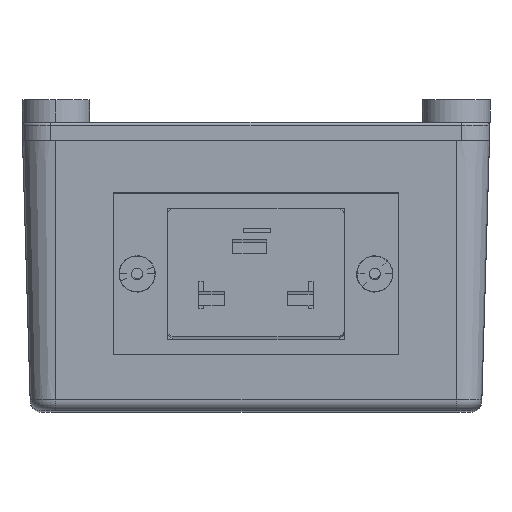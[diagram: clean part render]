
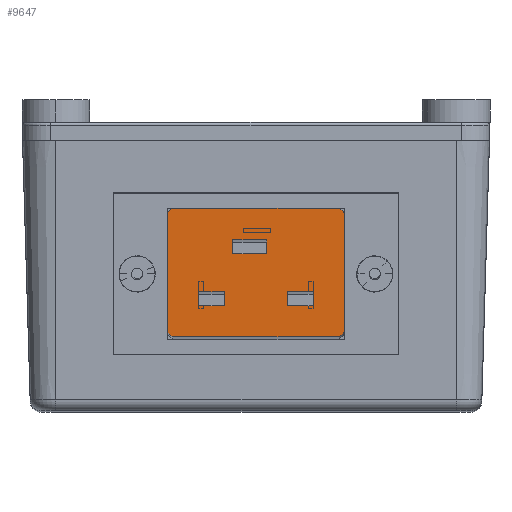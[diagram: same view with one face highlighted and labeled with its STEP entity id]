
A CAD part, top view. The second image highlights one B-rep face of the part: STEP entity #9647.
In plain terms, the highlighted planar face has unit normal (0, -0.029, 1) as drawn and (0, 0, 1) by its records, which use the part's own axes.
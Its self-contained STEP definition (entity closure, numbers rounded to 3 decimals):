
#28 = CARTESIAN_POINT ( 'NONE',  ( 21.7, 15.7, -17.3 ) ) ;
#36 = CARTESIAN_POINT ( 'NONE',  ( 0.5, 0.5, -17.3 ) ) ;
#223 = DIRECTION ( 'NONE',  ( -1., 0., 0. ) ) ;
#243 = VECTOR ( 'NONE', #1547, 1000. ) ;
#276 = CARTESIAN_POINT ( 'NONE',  ( 20.2, 8.5, -17.3 ) ) ;
#303 = CARTESIAN_POINT ( 'NONE',  ( 31.7, 23.7, -17.3 ) ) ;
#504 = LINE ( 'NONE', #3055, #4641 ) ;
#569 = VERTEX_POINT ( 'NONE', #28 ) ;
#626 = ORIENTED_EDGE ( 'NONE', *, *, #9958, .T. ) ;
#635 = EDGE_CURVE ( 'NONE', #8987, #569, #9195, .T. ) ;
#751 = VERTEX_POINT ( 'NONE', #276 ) ;
#759 = VECTOR ( 'NONE', #9210, 1000. ) ;
#1017 = VECTOR ( 'NONE', #5453, 1000. ) ;
#1093 = AXIS2_PLACEMENT_3D ( 'NONE', #7532, #9200, #4273 ) ;
#1179 = CARTESIAN_POINT ( 'NONE',  ( 14.2, 6.5, -17.3 ) ) ;
#1190 = CARTESIAN_POINT ( 'NONE',  ( 6., 15.7, -17.3 ) ) ;
#1294 = DIRECTION ( 'NONE',  ( 1., 0., 0. ) ) ;
#1384 = VECTOR ( 'NONE', #223, 1000. ) ;
#1463 = VERTEX_POINT ( 'NONE', #8432 ) ;
#1509 = ORIENTED_EDGE ( 'NONE', *, *, #1999, .T. ) ;
#1547 = DIRECTION ( 'NONE',  ( 1., 0., 0. ) ) ;
#1574 = VERTEX_POINT ( 'NONE', #1179 ) ;
#1653 = FACE_BOUND ( 'NONE', #7570, .T. ) ;
#1668 = VECTOR ( 'NONE', #5893, 1000. ) ;
#1669 = VECTOR ( 'NONE', #2689, 1000. ) ;
#1891 = EDGE_CURVE ( 'NONE', #6506, #10417, #5951, .T. ) ;
#1999 = EDGE_CURVE ( 'NONE', #8555, #9751, #504, .T. ) ;
#2124 = CARTESIAN_POINT ( 'NONE',  ( 21.7, 17.7, -17.3 ) ) ;
#2243 = DIRECTION ( 'NONE',  ( 1., 0., 0. ) ) ;
#2412 = EDGE_CURVE ( 'NONE', #5062, #3359, #9799, .T. ) ;
#2439 = LINE ( 'NONE', #3463, #759 ) ;
#2453 = DIRECTION ( 'NONE',  ( 1., 0., 0. ) ) ;
#2489 = VERTEX_POINT ( 'NONE', #5549 ) ;
#2609 = CARTESIAN_POINT ( 'NONE',  ( 10.5, 17.7, -17.3 ) ) ;
#2689 = DIRECTION ( 'NONE',  ( -1., 0., 0. ) ) ;
#2721 = EDGE_CURVE ( 'NONE', #9751, #6506, #5407, .T. ) ;
#2841 = EDGE_CURVE ( 'NONE', #3359, #1463, #7966, .T. ) ;
#2893 = CARTESIAN_POINT ( 'NONE',  ( 6., 17.7, -17.3 ) ) ;
#3055 = CARTESIAN_POINT ( 'NONE',  ( 0.5, 0., -17.3 ) ) ;
#3145 = CARTESIAN_POINT ( 'NONE',  ( 26.2, 17.7, -17.3 ) ) ;
#3154 = CARTESIAN_POINT ( 'NONE',  ( 10.5, 15.7, -17.3 ) ) ;
#3254 = EDGE_CURVE ( 'NONE', #1463, #2489, #9275, .T. ) ;
#3359 = VERTEX_POINT ( 'NONE', #3154 ) ;
#3420 = CARTESIAN_POINT ( 'NONE',  ( 31.7, 0., -17.3 ) ) ;
#3463 = CARTESIAN_POINT ( 'NONE',  ( 14.2, 8.5, -17.3 ) ) ;
#3659 = EDGE_CURVE ( 'NONE', #2489, #5062, #9262, .T. ) ;
#3755 = ORIENTED_EDGE ( 'NONE', *, *, #3659, .F. ) ;
#3784 = ORIENTED_EDGE ( 'NONE', *, *, #9136, .F. ) ;
#3848 = FACE_BOUND ( 'NONE', #6466, .T. ) ;
#3928 = DIRECTION ( 'NONE',  ( 0., 1., 0. ) ) ;
#3964 = DIRECTION ( 'NONE',  ( 0., 1., 0. ) ) ;
#3970 = CARTESIAN_POINT ( 'NONE',  ( 0., 0.5, -17.3 ) ) ;
#3973 = VECTOR ( 'NONE', #3964, 1000. ) ;
#4107 = FACE_OUTER_BOUND ( 'NONE', #8995, .T. ) ;
#4242 = DIRECTION ( 'NONE',  ( 0., 1., 0. ) ) ;
#4260 = VECTOR ( 'NONE', #4513, 1000. ) ;
#4273 = DIRECTION ( 'NONE',  ( -1., 0., 0. ) ) ;
#4513 = DIRECTION ( 'NONE',  ( -1., 0., 0. ) ) ;
#4641 = VECTOR ( 'NONE', #7132, 1000. ) ;
#4936 = VERTEX_POINT ( 'NONE', #5100 ) ;
#4962 = ORIENTED_EDGE ( 'NONE', *, *, #2721, .T. ) ;
#5062 = VERTEX_POINT ( 'NONE', #1190 ) ;
#5100 = CARTESIAN_POINT ( 'NONE',  ( 26.2, 15.7, -17.3 ) ) ;
#5370 = DIRECTION ( 'NONE',  ( 0., -1., 0. ) ) ;
#5407 = LINE ( 'NONE', #3970, #243 ) ;
#5453 = DIRECTION ( 'NONE',  ( -1., 0., 0. ) ) ;
#5486 = ORIENTED_EDGE ( 'NONE', *, *, #9841, .F. ) ;
#5549 = CARTESIAN_POINT ( 'NONE',  ( 6., 17.7, -17.3 ) ) ;
#5794 = LINE ( 'NONE', #6000, #1384 ) ;
#5890 = PLANE ( 'NONE',  #1093 ) ;
#5893 = DIRECTION ( 'NONE',  ( 0., 1., 0. ) ) ;
#5951 = LINE ( 'NONE', #3420, #7863 ) ;
#6000 = CARTESIAN_POINT ( 'NONE',  ( 21.7, 17.7, -17.3 ) ) ;
#6232 = VERTEX_POINT ( 'NONE', #9537 ) ;
#6242 = CARTESIAN_POINT ( 'NONE',  ( 6., 15.7, -17.3 ) ) ;
#6359 = ORIENTED_EDGE ( 'NONE', *, *, #9564, .F. ) ;
#6384 = VERTEX_POINT ( 'NONE', #8913 ) ;
#6466 = EDGE_LOOP ( 'NONE', ( #3784, #7427, #10524, #8447 ) ) ;
#6506 = VERTEX_POINT ( 'NONE', #7847 ) ;
#6552 = VECTOR ( 'NONE', #2453, 1000. ) ;
#6705 = DIRECTION ( 'NONE',  ( 0., -1., 0. ) ) ;
#6785 = ORIENTED_EDGE ( 'NONE', *, *, #9430, .F. ) ;
#6799 = VECTOR ( 'NONE', #5370, 1000. ) ;
#6813 = LINE ( 'NONE', #8258, #6552 ) ;
#6886 = ORIENTED_EDGE ( 'NONE', *, *, #2841, .F. ) ;
#6983 = VECTOR ( 'NONE', #6705, 1000. ) ;
#7132 = DIRECTION ( 'NONE',  ( 0., -1., 0. ) ) ;
#7427 = ORIENTED_EDGE ( 'NONE', *, *, #9828, .F. ) ;
#7532 = CARTESIAN_POINT ( 'NONE',  ( 0., 0., -17.3 ) ) ;
#7559 = ORIENTED_EDGE ( 'NONE', *, *, #3254, .F. ) ;
#7567 = VECTOR ( 'NONE', #2243, 1000. ) ;
#7570 = EDGE_LOOP ( 'NONE', ( #3755, #7559, #6886, #10336 ) ) ;
#7609 = CARTESIAN_POINT ( 'NONE',  ( 14.2, 8.5, -17.3 ) ) ;
#7847 = CARTESIAN_POINT ( 'NONE',  ( 31.7, 0.5, -17.3 ) ) ;
#7863 = VECTOR ( 'NONE', #4242, 1000. ) ;
#7966 = LINE ( 'NONE', #2609, #1668 ) ;
#7968 = LINE ( 'NONE', #7609, #1669 ) ;
#7999 = CARTESIAN_POINT ( 'NONE',  ( 20.2, 6.5, -17.3 ) ) ;
#8006 = CARTESIAN_POINT ( 'NONE',  ( 14.2, 6.5, -17.3 ) ) ;
#8057 = CARTESIAN_POINT ( 'NONE',  ( 20.2, 8.5, -17.3 ) ) ;
#8104 = VECTOR ( 'NONE', #1294, 1000. ) ;
#8258 = CARTESIAN_POINT ( 'NONE',  ( 21.7, 15.7, -17.3 ) ) ;
#8374 = VECTOR ( 'NONE', #3928, 1000. ) ;
#8432 = CARTESIAN_POINT ( 'NONE',  ( 10.5, 17.7, -17.3 ) ) ;
#8447 = ORIENTED_EDGE ( 'NONE', *, *, #10642, .F. ) ;
#8479 = VERTEX_POINT ( 'NONE', #7999 ) ;
#8555 = VERTEX_POINT ( 'NONE', #10593 ) ;
#8569 = ORIENTED_EDGE ( 'NONE', *, *, #1891, .T. ) ;
#8617 = LINE ( 'NONE', #8057, #8374 ) ;
#8700 = EDGE_LOOP ( 'NONE', ( #10392, #5486, #6785, #6359 ) ) ;
#8913 = CARTESIAN_POINT ( 'NONE',  ( 26.2, 17.7, -17.3 ) ) ;
#8987 = VERTEX_POINT ( 'NONE', #2124 ) ;
#8995 = EDGE_LOOP ( 'NONE', ( #1509, #4962, #8569, #626 ) ) ;
#9136 = EDGE_CURVE ( 'NONE', #6232, #1574, #2439, .T. ) ;
#9163 = CARTESIAN_POINT ( 'NONE',  ( 21.7, 17.7, -17.3 ) ) ;
#9195 = LINE ( 'NONE', #9163, #6983 ) ;
#9200 = DIRECTION ( 'NONE',  ( 0., 0., -1. ) ) ;
#9210 = DIRECTION ( 'NONE',  ( 0., -1., 0. ) ) ;
#9262 = LINE ( 'NONE', #2893, #6799 ) ;
#9275 = LINE ( 'NONE', #10377, #1017 ) ;
#9416 = EDGE_CURVE ( 'NONE', #8479, #751, #8617, .T. ) ;
#9430 = EDGE_CURVE ( 'NONE', #4936, #6384, #10528, .T. ) ;
#9446 = CARTESIAN_POINT ( 'NONE',  ( 0., 23.7, -17.3 ) ) ;
#9537 = CARTESIAN_POINT ( 'NONE',  ( 14.2, 8.5, -17.3 ) ) ;
#9564 = EDGE_CURVE ( 'NONE', #569, #4936, #6813, .T. ) ;
#9647 = ADVANCED_FACE ( 'NONE', ( #1653, #4107, #3848, #10165 ), #5890, .F. ) ;
#9751 = VERTEX_POINT ( 'NONE', #36 ) ;
#9754 = LINE ( 'NONE', #8006, #7567 ) ;
#9799 = LINE ( 'NONE', #6242, #8104 ) ;
#9828 = EDGE_CURVE ( 'NONE', #751, #6232, #7968, .T. ) ;
#9841 = EDGE_CURVE ( 'NONE', #6384, #8987, #5794, .T. ) ;
#9958 = EDGE_CURVE ( 'NONE', #10417, #8555, #10531, .T. ) ;
#10165 = FACE_BOUND ( 'NONE', #8700, .T. ) ;
#10336 = ORIENTED_EDGE ( 'NONE', *, *, #2412, .F. ) ;
#10377 = CARTESIAN_POINT ( 'NONE',  ( 6., 17.7, -17.3 ) ) ;
#10392 = ORIENTED_EDGE ( 'NONE', *, *, #635, .F. ) ;
#10417 = VERTEX_POINT ( 'NONE', #303 ) ;
#10524 = ORIENTED_EDGE ( 'NONE', *, *, #9416, .F. ) ;
#10528 = LINE ( 'NONE', #3145, #3973 ) ;
#10531 = LINE ( 'NONE', #9446, #4260 ) ;
#10593 = CARTESIAN_POINT ( 'NONE',  ( 0.5, 23.7, -17.3 ) ) ;
#10642 = EDGE_CURVE ( 'NONE', #1574, #8479, #9754, .T. ) ;
